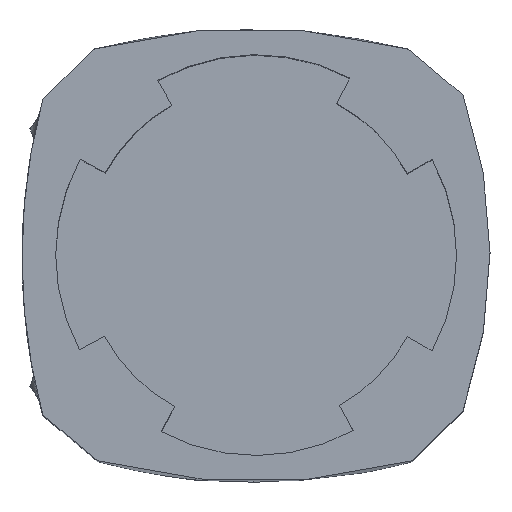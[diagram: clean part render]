
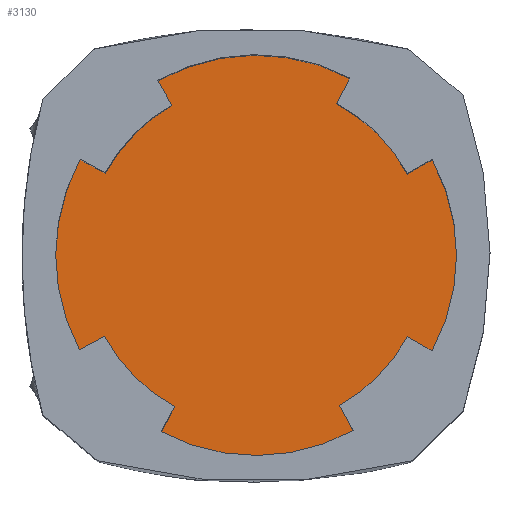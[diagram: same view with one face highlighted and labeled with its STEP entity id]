
A CAD part, top view. The second image highlights one B-rep face of the part: STEP entity #3130.
In plain terms, the highlighted planar face has unit normal (0, 0, 1).
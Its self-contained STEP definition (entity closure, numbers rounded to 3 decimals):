
#33 = DIRECTION ( 'NONE',  ( 1., 0., 0. ) ) ;
#76 = CARTESIAN_POINT ( 'NONE',  ( -10.21, -10.511, 15. ) ) ;
#153 = CARTESIAN_POINT ( 'NONE',  ( -10.21, -10.511, 15. ) ) ;
#173 = DIRECTION ( 'NONE',  ( 0., 0., 1. ) ) ;
#213 = DIRECTION ( 'NONE',  ( 1., 0., 0. ) ) ;
#217 = CARTESIAN_POINT ( 'NONE',  ( -11.179, -8.761, 15. ) ) ;
#292 = CARTESIAN_POINT ( 'NONE',  ( -23.628, -10.592, 15. ) ) ;
#304 = VERTEX_POINT ( 'NONE', #2737 ) ;
#338 = CIRCLE ( 'NONE', #2888, 14. ) ;
#369 = DIRECTION ( 'NONE',  ( 0., 0., 1. ) ) ;
#371 = CARTESIAN_POINT ( 'NONE',  ( -23.858, 13.937, 15. ) ) ;
#383 = DIRECTION ( 'NONE',  ( 0.866, -0.5, 0. ) ) ;
#402 = VERTEX_POINT ( 'NONE', #3212 ) ;
#406 = ORIENTED_EDGE ( 'NONE', *, *, #3333, .T. ) ;
#433 = PLANE ( 'NONE',  #2630 ) ;
#462 = DIRECTION ( 'NONE',  ( -0.485, 0.875, 0. ) ) ;
#486 = CIRCLE ( 'NONE', #3803, 14. ) ;
#511 = VERTEX_POINT ( 'NONE', #3022 ) ;
#519 = DIRECTION ( 'NONE',  ( 0., 0., 1. ) ) ;
#526 = EDGE_CURVE ( 'NONE', #3619, #3659, #2076, .T. ) ;
#546 = LINE ( 'NONE', #371, #3797 ) ;
#550 = EDGE_CURVE ( 'NONE', #3575, #511, #486, .T. ) ;
#584 = DIRECTION ( 'NONE',  ( 0., 0., 1. ) ) ;
#587 = LINE ( 'NONE', #2121, #3019 ) ;
#619 = VERTEX_POINT ( 'NONE', #1131 ) ;
#636 = VECTOR ( 'NONE', #383, 1000. ) ;
#644 = CARTESIAN_POINT ( 'NONE',  ( -11.376, 12.34, 15. ) ) ;
#684 = CARTESIAN_POINT ( 'NONE',  ( -16.994, 1.736, 15. ) ) ;
#762 = CARTESIAN_POINT ( 'NONE',  ( -4.698, -4.958, 15. ) ) ;
#788 = LINE ( 'NONE', #1762, #1616 ) ;
#818 = CARTESIAN_POINT ( 'NONE',  ( -22.68, -8.831, 15. ) ) ;
#849 = VERTEX_POINT ( 'NONE', #818 ) ;
#997 = DIRECTION ( 'NONE',  ( 1., 0., 0. ) ) ;
#1045 = CARTESIAN_POINT ( 'NONE',  ( -16.993, 1.736, 15. ) ) ;
#1122 = CARTESIAN_POINT ( 'NONE',  ( -29.334, -4.876, 15. ) ) ;
#1131 = CARTESIAN_POINT ( 'NONE',  ( -6.43, -3.958, 15. ) ) ;
#1150 = ORIENTED_EDGE ( 'NONE', *, *, #3614, .T. ) ;
#1193 = VERTEX_POINT ( 'NONE', #762 ) ;
#1250 = ORIENTED_EDGE ( 'NONE', *, *, #2635, .T. ) ;
#1269 = VECTOR ( 'NONE', #3923, 1000. ) ;
#1309 = ORIENTED_EDGE ( 'NONE', *, *, #3164, .T. ) ;
#1329 = ORIENTED_EDGE ( 'NONE', *, *, #4036, .T. ) ;
#1330 = EDGE_LOOP ( 'NONE', ( #3169, #3090, #2805, #3603, #3623, #3505, #1897, #1150, #2537, #1309, #1329, #1250, #406, #2182, #1614, #3128, #3731 ) ) ;
#1356 = DIRECTION ( 'NONE',  ( 1., 0., 0. ) ) ;
#1372 = DIRECTION ( 'NONE',  ( 1., 0., 0. ) ) ;
#1397 = VERTEX_POINT ( 'NONE', #1510 ) ;
#1409 = EDGE_CURVE ( 'NONE', #3659, #849, #1599, .T. ) ;
#1447 = CARTESIAN_POINT ( 'NONE',  ( -27.571, -3.932, 15. ) ) ;
#1464 = DIRECTION ( 'NONE',  ( -0.878, 0.478, 0. ) ) ;
#1510 = CARTESIAN_POINT ( 'NONE',  ( -23.858, 13.937, 15. ) ) ;
#1531 = CIRCLE ( 'NONE', #2607, 14. ) ;
#1568 = VECTOR ( 'NONE', #462, 1000. ) ;
#1599 = CIRCLE ( 'NONE', #2861, 12. ) ;
#1614 = ORIENTED_EDGE ( 'NONE', *, *, #3358, .T. ) ;
#1616 = VECTOR ( 'NONE', #3650, 1000. ) ;
#1664 = LINE ( 'NONE', #153, #1568 ) ;
#1762 = CARTESIAN_POINT ( 'NONE',  ( -22.68, -8.831, 15. ) ) ;
#1773 = DIRECTION ( 'NONE',  ( 0., 0., 1. ) ) ;
#1826 = VECTOR ( 'NONE', #3843, 1000. ) ;
#1897 = ORIENTED_EDGE ( 'NONE', *, *, #1409, .T. ) ;
#1915 = CIRCLE ( 'NONE', #2350, 14. ) ;
#1916 = DIRECTION ( 'NONE',  ( 0., 0., 1. ) ) ;
#1948 = DIRECTION ( 'NONE',  ( 0.49, -0.872, 0. ) ) ;
#1991 = CARTESIAN_POINT ( 'NONE',  ( -29.289, 8.43, 15. ) ) ;
#2008 = CARTESIAN_POINT ( 'NONE',  ( -16.993, 1.736, 15. ) ) ;
#2023 = EDGE_CURVE ( 'NONE', #3468, #304, #4065, .T. ) ;
#2027 = LINE ( 'NONE', #2038, #1269 ) ;
#2038 = CARTESIAN_POINT ( 'NONE',  ( -11.376, 12.34, 15. ) ) ;
#2051 = CARTESIAN_POINT ( 'NONE',  ( -16.993, 1.736, 15. ) ) ;
#2076 = LINE ( 'NONE', #1122, #2815 ) ;
#2092 = CARTESIAN_POINT ( 'NONE',  ( -29.334, -4.876, 15. ) ) ;
#2103 = DIRECTION ( 'NONE',  ( 0., 0., 1. ) ) ;
#2121 = CARTESIAN_POINT ( 'NONE',  ( -27.533, 7.474, 15. ) ) ;
#2182 = ORIENTED_EDGE ( 'NONE', *, *, #550, .T. ) ;
#2267 = AXIS2_PLACEMENT_3D ( 'NONE', #2426, #519, #2738 ) ;
#2269 = CARTESIAN_POINT ( 'NONE',  ( -16.993, 1.736, 15. ) ) ;
#2350 = AXIS2_PLACEMENT_3D ( 'NONE', #684, #2898, #997 ) ;
#2376 = DIRECTION ( 'NONE',  ( 1., 0., 0. ) ) ;
#2380 = CIRCLE ( 'NONE', #2267, 14. ) ;
#2426 = CARTESIAN_POINT ( 'NONE',  ( -16.993, 1.736, 15. ) ) ;
#2486 = CARTESIAN_POINT ( 'NONE',  ( -16.993, 1.736, 15. ) ) ;
#2537 = ORIENTED_EDGE ( 'NONE', *, *, #2699, .T. ) ;
#2583 = DIRECTION ( 'NONE',  ( 1., 0., 0. ) ) ;
#2606 = EDGE_CURVE ( 'NONE', #1397, #3468, #546, .T. ) ;
#2607 = AXIS2_PLACEMENT_3D ( 'NONE', #3806, #1916, #33 ) ;
#2630 = AXIS2_PLACEMENT_3D ( 'NONE', #2008, #3270, #1372 ) ;
#2635 = EDGE_CURVE ( 'NONE', #619, #1193, #2964, .T. ) ;
#2699 = EDGE_CURVE ( 'NONE', #3862, #3032, #338, .T. ) ;
#2737 = CARTESIAN_POINT ( 'NONE',  ( -27.533, 7.474, 15. ) ) ;
#2738 = DIRECTION ( 'NONE',  ( 1., 0., 0. ) ) ;
#2745 = VERTEX_POINT ( 'NONE', #3907 ) ;
#2778 = CIRCLE ( 'NONE', #4033, 12. ) ;
#2805 = ORIENTED_EDGE ( 'NONE', *, *, #2023, .T. ) ;
#2808 = DIRECTION ( 'NONE',  ( 1., 0., 0. ) ) ;
#2815 = VECTOR ( 'NONE', #3337, 1000. ) ;
#2861 = AXIS2_PLACEMENT_3D ( 'NONE', #2486, #584, #2808 ) ;
#2888 = AXIS2_PLACEMENT_3D ( 'NONE', #1045, #3259, #1356 ) ;
#2898 = DIRECTION ( 'NONE',  ( 0., 0., 1. ) ) ;
#2922 = CARTESIAN_POINT ( 'NONE',  ( -6.43, -3.958, 15. ) ) ;
#2964 = LINE ( 'NONE', #2922, #636 ) ;
#3019 = VECTOR ( 'NONE', #1464, 1000. ) ;
#3022 = CARTESIAN_POINT ( 'NONE',  ( -4.698, 8.43, 15. ) ) ;
#3032 = VERTEX_POINT ( 'NONE', #76 ) ;
#3090 = ORIENTED_EDGE ( 'NONE', *, *, #2606, .T. ) ;
#3114 = VERTEX_POINT ( 'NONE', #1991 ) ;
#3122 = AXIS2_PLACEMENT_3D ( 'NONE', #3978, #2103, #213 ) ;
#3128 = ORIENTED_EDGE ( 'NONE', *, *, #3546, .T. ) ;
#3130 = ADVANCED_FACE ( 'NONE', ( #3448 ), #433, .T. ) ;
#3164 = EDGE_CURVE ( 'NONE', #3032, #3712, #1664, .T. ) ;
#3169 = ORIENTED_EDGE ( 'NONE', *, *, #3957, .T. ) ;
#3212 = CARTESIAN_POINT ( 'NONE',  ( -10.44, 14.107, 15. ) ) ;
#3259 = DIRECTION ( 'NONE',  ( 0., 0., 1. ) ) ;
#3270 = DIRECTION ( 'NONE',  ( 0., 0., 1. ) ) ;
#3324 = CARTESIAN_POINT ( 'NONE',  ( -2.994, 1.736, 15. ) ) ;
#3333 = EDGE_CURVE ( 'NONE', #1193, #3575, #1915, .T. ) ;
#3337 = DIRECTION ( 'NONE',  ( 0.881, 0.472, 0. ) ) ;
#3358 = EDGE_CURVE ( 'NONE', #511, #2745, #3406, .T. ) ;
#3406 = LINE ( 'NONE', #3518, #1826 ) ;
#3448 = FACE_OUTER_BOUND ( 'NONE', #1330, .T. ) ;
#3468 = VERTEX_POINT ( 'NONE', #3901 ) ;
#3504 = AXIS2_PLACEMENT_3D ( 'NONE', #2269, #369, #2583 ) ;
#3505 = ORIENTED_EDGE ( 'NONE', *, *, #526, .T. ) ;
#3518 = CARTESIAN_POINT ( 'NONE',  ( -4.698, 8.43, 15. ) ) ;
#3521 = EDGE_CURVE ( 'NONE', #3930, #402, #2027, .T. ) ;
#3546 = EDGE_CURVE ( 'NONE', #2745, #3930, #2778, .T. ) ;
#3575 = VERTEX_POINT ( 'NONE', #3324 ) ;
#3603 = ORIENTED_EDGE ( 'NONE', *, *, #3724, .T. ) ;
#3614 = EDGE_CURVE ( 'NONE', #849, #3862, #788, .T. ) ;
#3619 = VERTEX_POINT ( 'NONE', #2092 ) ;
#3623 = ORIENTED_EDGE ( 'NONE', *, *, #3642, .T. ) ;
#3642 = EDGE_CURVE ( 'NONE', #3114, #3619, #2380, .T. ) ;
#3650 = DIRECTION ( 'NONE',  ( -0.474, -0.881, 0. ) ) ;
#3659 = VERTEX_POINT ( 'NONE', #1447 ) ;
#3664 = CARTESIAN_POINT ( 'NONE',  ( -16.994, 1.736, 15. ) ) ;
#3712 = VERTEX_POINT ( 'NONE', #217 ) ;
#3724 = EDGE_CURVE ( 'NONE', #304, #3114, #587, .T. ) ;
#3731 = ORIENTED_EDGE ( 'NONE', *, *, #3521, .T. ) ;
#3797 = VECTOR ( 'NONE', #1948, 1000. ) ;
#3803 = AXIS2_PLACEMENT_3D ( 'NONE', #3664, #1773, #3981 ) ;
#3806 = CARTESIAN_POINT ( 'NONE',  ( -16.993, 1.736, 15. ) ) ;
#3843 = DIRECTION ( 'NONE',  ( -0.866, -0.5, 0. ) ) ;
#3849 = CIRCLE ( 'NONE', #3504, 12. ) ;
#3862 = VERTEX_POINT ( 'NONE', #292 ) ;
#3901 = CARTESIAN_POINT ( 'NONE',  ( -22.877, 12.194, 15. ) ) ;
#3907 = CARTESIAN_POINT ( 'NONE',  ( -6.43, 7.43, 15. ) ) ;
#3923 = DIRECTION ( 'NONE',  ( 0.468, 0.884, 0. ) ) ;
#3930 = VERTEX_POINT ( 'NONE', #644 ) ;
#3957 = EDGE_CURVE ( 'NONE', #402, #1397, #1531, .T. ) ;
#3978 = CARTESIAN_POINT ( 'NONE',  ( -16.993, 1.736, 15. ) ) ;
#3981 = DIRECTION ( 'NONE',  ( 1., 0., 0. ) ) ;
#4033 = AXIS2_PLACEMENT_3D ( 'NONE', #2051, #173, #2376 ) ;
#4036 = EDGE_CURVE ( 'NONE', #3712, #619, #3849, .T. ) ;
#4065 = CIRCLE ( 'NONE', #3122, 12. ) ;
